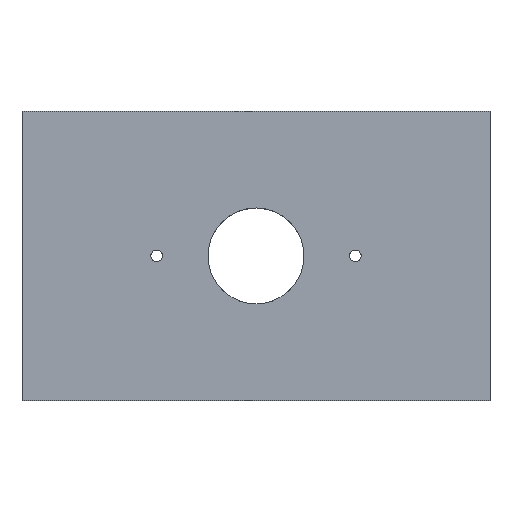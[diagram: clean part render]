
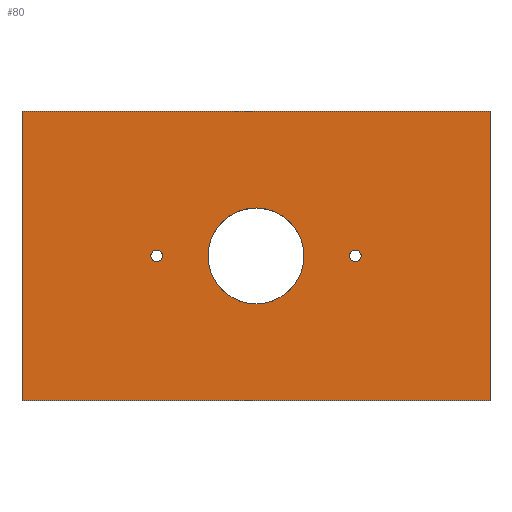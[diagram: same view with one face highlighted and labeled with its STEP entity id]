
A CAD part, top view. The second image highlights one B-rep face of the part: STEP entity #80.
In plain terms, the highlighted planar face has unit normal (0, 0, 1).
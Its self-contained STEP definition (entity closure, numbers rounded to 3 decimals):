
#1 = AXIS2_PLACEMENT_3D ( 'NONE', #391, #527, #830 ) ;
#3 = EDGE_CURVE ( 'NONE', #785, #779, #888, .T. ) ;
#4 = PLANE ( 'NONE',  #48 ) ;
#14 = EDGE_CURVE ( 'NONE', #948, #486, #675, .T. ) ;
#18 = LINE ( 'NONE', #252, #32 ) ;
#27 = DIRECTION ( 'NONE',  ( 0., -1., 0. ) ) ;
#30 = DIRECTION ( 'NONE',  ( 0., 0., 1. ) ) ;
#32 = VECTOR ( 'NONE', #460, 1000. ) ;
#48 = AXIS2_PLACEMENT_3D ( 'NONE', #159, #592, #231 ) ;
#58 = ORIENTED_EDGE ( 'NONE', *, *, #503, .F. ) ;
#68 = CARTESIAN_POINT ( 'NONE',  ( 0., 0., 4.536 ) ) ;
#75 = CIRCLE ( 'NONE', #205, 4.1 ) ;
#80 = ADVANCED_FACE ( 'NONE', ( #525, #365, #662, #372 ), #4, .T. ) ;
#94 = DIRECTION ( 'NONE',  ( 0., -1., 0. ) ) ;
#123 = CIRCLE ( 'NONE', #661, 0.5 ) ;
#159 = CARTESIAN_POINT ( 'NONE',  ( 29.117, 12.356, 4.536 ) ) ;
#163 = ORIENTED_EDGE ( 'NONE', *, *, #308, .F. ) ;
#165 = CARTESIAN_POINT ( 'NONE',  ( 20., -12.356, 4.536 ) ) ;
#174 = CARTESIAN_POINT ( 'NONE',  ( -20., -12.356, 4.536 ) ) ;
#197 = EDGE_LOOP ( 'NONE', ( #163, #344 ) ) ;
#205 = AXIS2_PLACEMENT_3D ( 'NONE', #718, #284, #94 ) ;
#208 = VECTOR ( 'NONE', #464, 1000. ) ;
#231 = DIRECTION ( 'NONE',  ( 0., -1., 0. ) ) ;
#252 = CARTESIAN_POINT ( 'NONE',  ( 29.117, 12.356, 4.536 ) ) ;
#253 = DIRECTION ( 'NONE',  ( -1., 0., 0. ) ) ;
#260 = CARTESIAN_POINT ( 'NONE',  ( 8., 0., 4.536 ) ) ;
#266 = VERTEX_POINT ( 'NONE', #843 ) ;
#267 = CARTESIAN_POINT ( 'NONE',  ( -4.1, 0., 4.536 ) ) ;
#283 = EDGE_CURVE ( 'NONE', #498, #779, #18, .T. ) ;
#284 = DIRECTION ( 'NONE',  ( 0., 0., 1. ) ) ;
#300 = VERTEX_POINT ( 'NONE', #165 ) ;
#302 = EDGE_CURVE ( 'NONE', #266, #744, #569, .T. ) ;
#304 = EDGE_LOOP ( 'NONE', ( #860, #58, #564, #891 ) ) ;
#305 = DIRECTION ( 'NONE',  ( 0., 0., 1. ) ) ;
#308 = EDGE_CURVE ( 'NONE', #744, #266, #123, .T. ) ;
#314 = CARTESIAN_POINT ( 'NONE',  ( 20., 12.356, 4.536 ) ) ;
#325 = VECTOR ( 'NONE', #253, 1000. ) ;
#337 = CARTESIAN_POINT ( 'NONE',  ( 8.5, 0., 4.536 ) ) ;
#344 = ORIENTED_EDGE ( 'NONE', *, *, #302, .F. ) ;
#365 = FACE_BOUND ( 'NONE', #756, .T. ) ;
#372 = FACE_BOUND ( 'NONE', #532, .T. ) ;
#374 = VERTEX_POINT ( 'NONE', #471 ) ;
#391 = CARTESIAN_POINT ( 'NONE',  ( -8.5, 0., 4.536 ) ) ;
#392 = LINE ( 'NONE', #911, #325 ) ;
#412 = AXIS2_PLACEMENT_3D ( 'NONE', #68, #305, #731 ) ;
#453 = CARTESIAN_POINT ( 'NONE',  ( -9., 0., 4.536 ) ) ;
#460 = DIRECTION ( 'NONE',  ( -1., 0., 0. ) ) ;
#464 = DIRECTION ( 'NONE',  ( 0., 1., 0. ) ) ;
#471 = CARTESIAN_POINT ( 'NONE',  ( 9., 0., 4.536 ) ) ;
#476 = EDGE_CURVE ( 'NONE', #794, #374, #570, .T. ) ;
#486 = VERTEX_POINT ( 'NONE', #924 ) ;
#492 = AXIS2_PLACEMENT_3D ( 'NONE', #927, #615, #831 ) ;
#498 = VERTEX_POINT ( 'NONE', #314 ) ;
#503 = EDGE_CURVE ( 'NONE', #300, #785, #392, .T. ) ;
#515 = EDGE_CURVE ( 'NONE', #374, #794, #602, .T. ) ;
#525 = FACE_OUTER_BOUND ( 'NONE', #304, .T. ) ;
#527 = DIRECTION ( 'NONE',  ( 0., 0., 1. ) ) ;
#532 = EDGE_LOOP ( 'NONE', ( #934, #652 ) ) ;
#536 = CARTESIAN_POINT ( 'NONE',  ( 20., 12.356, 4.536 ) ) ;
#562 = DIRECTION ( 'NONE',  ( 0., -1., 0. ) ) ;
#564 = ORIENTED_EDGE ( 'NONE', *, *, #834, .T. ) ;
#569 = CIRCLE ( 'NONE', #1, 0.5 ) ;
#570 = CIRCLE ( 'NONE', #492, 0.5 ) ;
#580 = CARTESIAN_POINT ( 'NONE',  ( -20., 12.356, 4.536 ) ) ;
#592 = DIRECTION ( 'NONE',  ( 0., 0., 1. ) ) ;
#602 = CIRCLE ( 'NONE', #752, 0.5 ) ;
#604 = ORIENTED_EDGE ( 'NONE', *, *, #713, .F. ) ;
#612 = LINE ( 'NONE', #536, #208 ) ;
#615 = DIRECTION ( 'NONE',  ( 0., 0., 1. ) ) ;
#652 = ORIENTED_EDGE ( 'NONE', *, *, #515, .F. ) ;
#661 = AXIS2_PLACEMENT_3D ( 'NONE', #760, #30, #27 ) ;
#662 = FACE_BOUND ( 'NONE', #197, .T. ) ;
#675 = CIRCLE ( 'NONE', #412, 4.1 ) ;
#713 = EDGE_CURVE ( 'NONE', #486, #948, #75, .T. ) ;
#718 = CARTESIAN_POINT ( 'NONE',  ( 0., 0., 4.536 ) ) ;
#731 = DIRECTION ( 'NONE',  ( 0., -1., 0. ) ) ;
#744 = VERTEX_POINT ( 'NONE', #453 ) ;
#752 = AXIS2_PLACEMENT_3D ( 'NONE', #337, #856, #562 ) ;
#756 = EDGE_LOOP ( 'NONE', ( #604, #781 ) ) ;
#760 = CARTESIAN_POINT ( 'NONE',  ( -8.5, 0., 4.536 ) ) ;
#779 = VERTEX_POINT ( 'NONE', #845 ) ;
#781 = ORIENTED_EDGE ( 'NONE', *, *, #14, .F. ) ;
#785 = VERTEX_POINT ( 'NONE', #174 ) ;
#794 = VERTEX_POINT ( 'NONE', #260 ) ;
#830 = DIRECTION ( 'NONE',  ( 0., -1., 0. ) ) ;
#831 = DIRECTION ( 'NONE',  ( 0., -1., 0. ) ) ;
#834 = EDGE_CURVE ( 'NONE', #300, #498, #612, .T. ) ;
#843 = CARTESIAN_POINT ( 'NONE',  ( -8., 0., 4.536 ) ) ;
#845 = CARTESIAN_POINT ( 'NONE',  ( -20., 12.356, 4.536 ) ) ;
#856 = DIRECTION ( 'NONE',  ( 0., 0., 1. ) ) ;
#860 = ORIENTED_EDGE ( 'NONE', *, *, #3, .F. ) ;
#879 = DIRECTION ( 'NONE',  ( 0., 1., 0. ) ) ;
#888 = LINE ( 'NONE', #580, #935 ) ;
#891 = ORIENTED_EDGE ( 'NONE', *, *, #283, .T. ) ;
#911 = CARTESIAN_POINT ( 'NONE',  ( 29.117, -12.356, 4.536 ) ) ;
#924 = CARTESIAN_POINT ( 'NONE',  ( 4.1, 0., 4.536 ) ) ;
#927 = CARTESIAN_POINT ( 'NONE',  ( 8.5, 0., 4.536 ) ) ;
#934 = ORIENTED_EDGE ( 'NONE', *, *, #476, .F. ) ;
#935 = VECTOR ( 'NONE', #879, 1000. ) ;
#948 = VERTEX_POINT ( 'NONE', #267 ) ;
